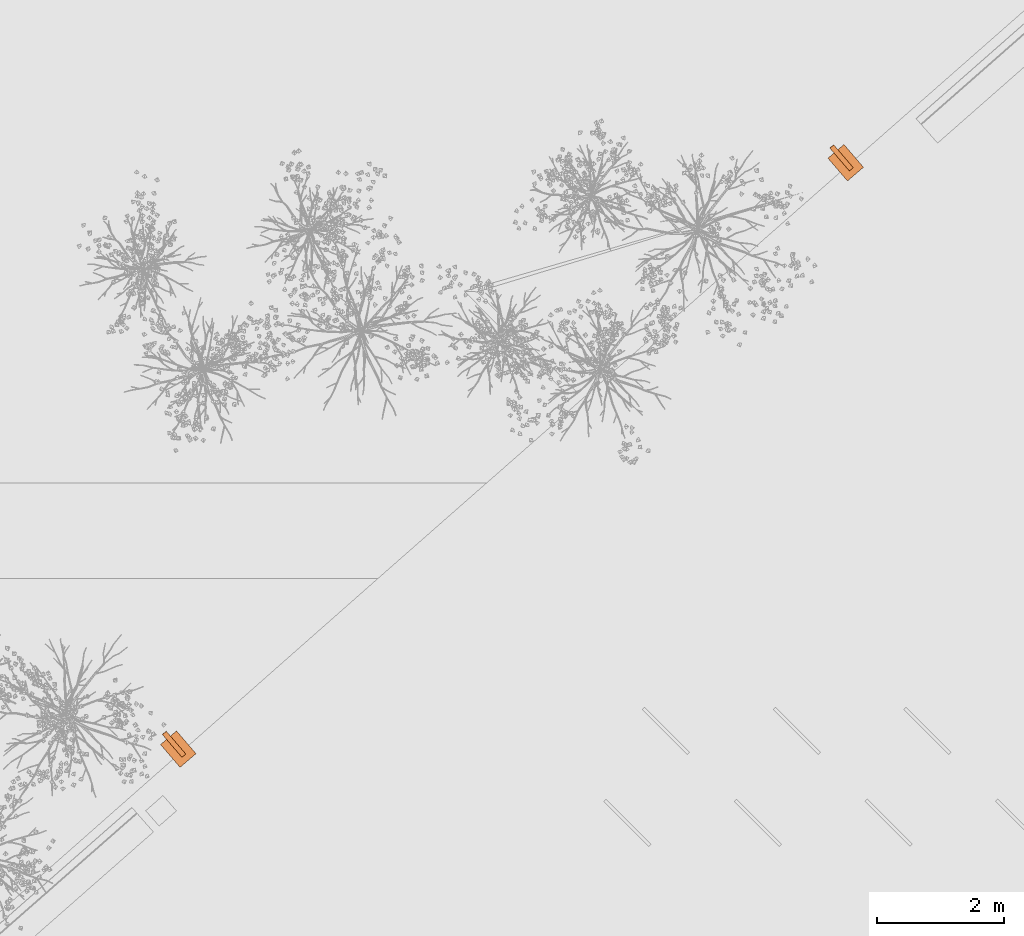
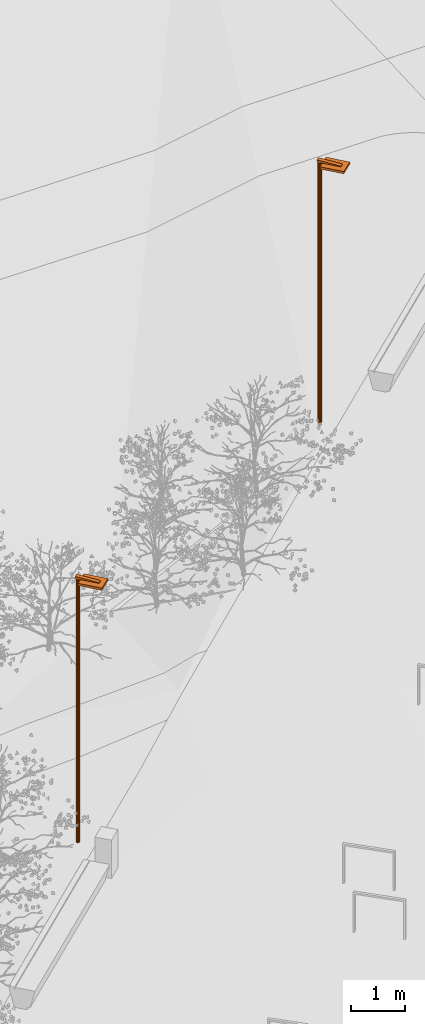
# One storey, part 206 of 246: 2 proxies.
"""IFC2X3 building model written with IfcOpenShell, lengths in millimetres."""

from ifc_helpers import new_model, entity, si_unit, converted_unit, derived_unit, money_unit, direction, frame, origin_with_axes, place, context, subcontext, project, spatial, faceted_brep, source, transform, mapped, material, type_object, element, save


model = new_model("IFC2X3")

# Units and contexts
model_context = context("Model", 3, precision=0.01, world=origin_with_axes(), true_north=direction((0.0, 1.0)))
body_context = subcontext(model_context, "Body", "Model", "MODEL_VIEW")
ifc_project = project(units=[si_unit("LENGTHUNIT", "METRE", prefix="MILLI"), si_unit("AREAUNIT", "SQUARE_METRE"), si_unit("VOLUMEUNIT", "CUBIC_METRE"), converted_unit("PLANEANGLEUNIT", "DEGREE", entity("IfcPlaneAngleMeasure", 0.0174532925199), si_unit("PLANEANGLEUNIT", "RADIAN"), dimensions=[0, 0, 0, 0, 0, 0, 0]), si_unit("SOLIDANGLEUNIT", "STERADIAN"), money_unit("EUR"), converted_unit("TIMEUNIT", "Year", entity("IfcTimeMeasure", 31556926.0), si_unit("TIMEUNIT", "SECOND"), dimensions=[0, 0, 1, 0, 0, 0, 0]), si_unit("MASSUNIT", "GRAM", prefix="KILO"), si_unit("THERMODYNAMICTEMPERATUREUNIT", "DEGREE_CELSIUS"), si_unit("LUMINOUSINTENSITYUNIT", "LUMEN"), si_unit("ENERGYUNIT", "JOULE", prefix="MEGA"), derived_unit("THERMALCONDUCTANCEUNIT", [(si_unit("POWERUNIT", "WATT"), 1), (si_unit("LENGTHUNIT", "METRE"), -1), (si_unit("THERMODYNAMICTEMPERATUREUNIT", "KELVIN"), -1)]), derived_unit("SPECIFICHEATCAPACITYUNIT", [(si_unit("ENERGYUNIT", "JOULE"), 1), (si_unit("MASSUNIT", "GRAM", prefix="KILO"), -1), (si_unit("THERMODYNAMICTEMPERATUREUNIT", "KELVIN"), -1)]), derived_unit("MASSDENSITYUNIT", [(si_unit("MASSUNIT", "GRAM", prefix="KILO"), 1), (si_unit("VOLUMEUNIT", "CUBIC_METRE"), -1)])], contexts=[model_context])

# Site, building, storey
site_placement = place(None, origin_with_axes())
site = spatial("IfcSite", under=ifc_project, at=site_placement, Name="L.Koidula tn 11b", CompositionType="ELEMENT")
building_placement = place(site_placement, origin_with_axes())
building = spatial("IfcBuilding", under=site, at=building_placement, Name="Rakvere Riigigümnaasium", CompositionType="ELEMENT")
storey_placement = place(building_placement, origin_with_axes())
storey = spatial("IfcBuildingStorey", under=building, at=storey_placement, Name="1.korrus 0,00", CompositionType="ELEMENT", Elevation=0.0)

# Proxies
ifc_material = material(Name="Alumiiniumprofiil (RAL 7021)")
building_element_proxy_type = type_object("IfcBuildingElementProxyType", Name="Väls valgusti - VFL530 LED", PredefinedType="NOTDEFINED")
shared_shape = source(origin_with_axes(), body_context, "Body", "Brep", [
    faceted_brep([(468.863076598, 125.0, 5952.26982842), (468.863076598, 205.0, 5952.26982842), (470.0, 205.0, 5967.74900907), (470.0, 125.0, 5967.74900907), (100.0, 205.0, 5952.26982842), (100.0, 125.0, 5952.26982842), (100.0, 205.0, 5944.7902874), (-3.66256168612, 205.0, 5952.40415243), (0.0, 205.0, 6002.26982842), (0.0, 125.0, 6002.26982842), (-3.66256168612, 125.0, 5952.40415243), (100.0, 125.0, 5944.7902874)], [[[0, 1, 2, 3]], [[4, 1, 0, 5]], [[4, 6, 7, 8, 2, 1]], [[2, 8, 9, 3]], [[5, 0, 3, 9, 10, 11]], [[6, 4, 5, 11]], [[6, 11, 10, 7]], [[8, 7, 10, 9]]]),
    faceted_brep([(100.0, 330.0, 5902.26982842), (100.0, 0.0, 5902.26982842), (100.0, 0.0, 5952.26982842), (100.0, 330.0, 5952.26982842), (570.0, 330.0, 5902.26982842), (570.0, 0.0, 5902.26982842), (570.0, 0.0, 5952.26982842), (570.0, 330.0, 5952.26982842)], [[[0, 1, 2, 3]], [[0, 4, 5, 1]], [[1, 5, 6, 2]], [[3, 2, 6, 7]], [[4, 0, 3, 7]], [[5, 4, 7, 6]]]),
    faceted_brep([(76.9551813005, 180.307337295, 5946.48289596), (80.0, 165.0, 5946.25925843), (80.0, 165.0, 0.0), (76.9551813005, 180.307337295, 0.0), (76.9551813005, 149.692662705, 5946.48289596), (68.2842712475, 193.284271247, 5947.11976174), (55.3073372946, 201.9551813, 5948.07289875), (40.0, 205.0, 5949.19720051), (24.6926627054, 201.9551813, 5950.32150226), (11.7157287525, 193.284271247, 5951.27463927), (3.04481869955, 180.307337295, 5951.91150505), (0.0, 165.0, 5952.13514258), (3.04481869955, 149.692662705, 5951.91150505), (11.7157287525, 136.715728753, 5951.27463927), (24.6926627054, 128.0448187, 5950.32150226), (40.0, 125.0, 5949.19720051), (55.3073372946, 128.0448187, 5948.07289875), (68.2842712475, 136.715728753, 5947.11976174), (76.9551813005, 149.692662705, 0.0), (3.04481869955, 149.692662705, 0.0), (0.0, 165.0, 0.0), (3.04481869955, 180.307337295, 0.0), (11.7157287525, 193.284271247, 0.0), (24.6926627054, 201.9551813, 0.0), (40.0, 205.0, 0.0), (55.3073372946, 201.9551813, 0.0), (68.2842712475, 193.284271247, 0.0), (68.2842712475, 136.715728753, 0.0), (55.3073372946, 128.0448187, 0.0), (40.0, 125.0, 0.0), (24.6926627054, 128.0448187, 0.0), (11.7157287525, 136.715728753, 0.0)], [[[0, 1, 2, 3]], [[4, 1, 0, 5, 6, 7, 8, 9, 10, 11, 12, 13, 14, 15, 16, 17]], [[1, 4, 18, 2]], [[19, 20, 21, 22, 23, 24, 25, 26, 3, 2, 18, 27, 28, 29, 30, 31]], [[5, 0, 3, 26]], [[6, 5, 26, 25]], [[7, 6, 25, 24]], [[8, 7, 24, 23]], [[9, 8, 23, 22]], [[10, 9, 22, 21]], [[11, 10, 21, 20]], [[12, 11, 20, 19]], [[13, 12, 19, 31]], [[14, 13, 31, 30]], [[15, 14, 30, 29]], [[16, 15, 29, 28]], [[17, 16, 28, 27]], [[4, 17, 27, 18]]]),
])
for number, where, z_axis, x_axis in (
    (1, (16396.2269364, 85158.1715654, -133.355534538), (0.0, 0.0, 1.0), (0.651030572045, -0.759051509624, 0.0)),
    (2, (26876.9877244, 94366.2581781, 16.451202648), (0.0, 0.0, 1.0), (0.651030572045, -0.759051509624, 0.0)),
):
    element("IfcBuildingElementProxy", number, at=place(storey_placement, frame(where, z_axis=z_axis, x_axis=x_axis)), inside=storey, type_object=building_element_proxy_type, material=ifc_material, Name="Tänava valgusti", context=body_context, shape_type="MappedRepresentation", body=[
        mapped(shared_shape, transform((0.0, 0.0, 0.0))),
    ])

save(model, "model.ifc")
